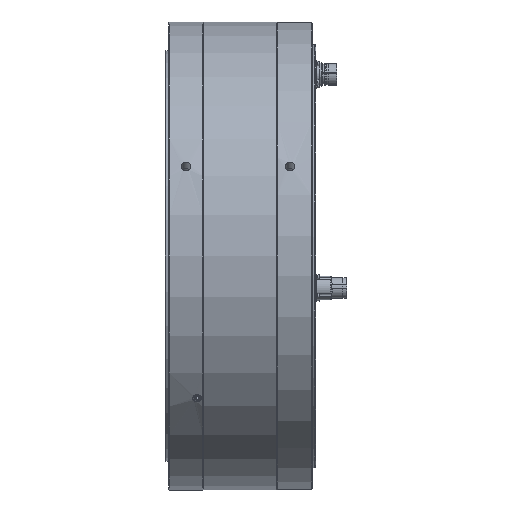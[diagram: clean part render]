
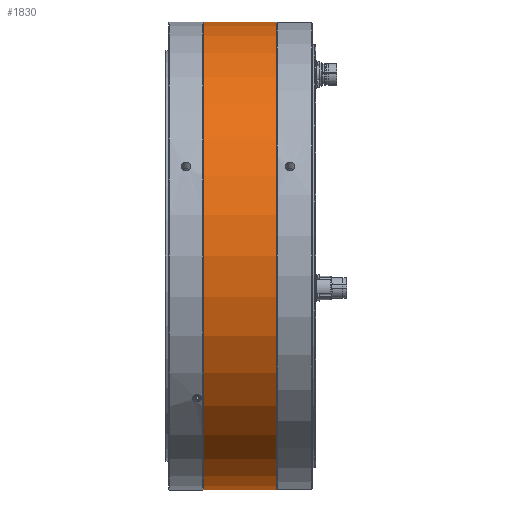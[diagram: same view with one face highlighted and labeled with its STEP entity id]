
A CAD part, front view. The second image highlights one B-rep face of the part: STEP entity #1830.
In plain terms, the highlighted cylindrical face has radius 245 mm (diameter 490 mm), a full revolution.
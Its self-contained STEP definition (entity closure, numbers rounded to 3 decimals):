
#1830 = ADVANCED_FACE( '', ( #3950, #3951 ), #3952, .T. );
#3950 = FACE_OUTER_BOUND( '', #6709, .T. );
#3951 = FACE_OUTER_BOUND( '', #6710, .T. );
#3952 = CYLINDRICAL_SURFACE( '', #6711, 245. );
#6709 = EDGE_LOOP( '', ( #10411 ) );
#6710 = EDGE_LOOP( '', ( #10412 ) );
#6711 = AXIS2_PLACEMENT_3D( '', #10413, #10414, #10415 );
#10411 = ORIENTED_EDGE( '', *, *, #13398, .T. );
#10412 = ORIENTED_EDGE( '', *, *, #13703, .T. );
#10413 = CARTESIAN_POINT( '', ( -60., 0., 0. ) );
#10414 = DIRECTION( '', ( 1., 0., 0. ) );
#10415 = DIRECTION( '', ( 0., 0., 1. ) );
#13398 = EDGE_CURVE( '', #16264, #16264, #16265, .F. );
#13703 = EDGE_CURVE( '', #16726, #16726, #16727, .F. );
#16264 = VERTEX_POINT( '', #18889 );
#16265 = CIRCLE( '', #18890, 245. );
#16726 = VERTEX_POINT( '', #19522 );
#16727 = CIRCLE( '', #19523, 245. );
#18889 = CARTESIAN_POINT( '', ( 0.5, 0., 245. ) );
#18890 = AXIS2_PLACEMENT_3D( '', #21910, #21911, #21912 );
#19522 = CARTESIAN_POINT( '', ( 76.5, 0., -245. ) );
#19523 = AXIS2_PLACEMENT_3D( '', #22381, #22382, #22383 );
#21910 = CARTESIAN_POINT( '', ( 0.5, 0., 0. ) );
#21911 = DIRECTION( '', ( -1., 0., 0. ) );
#21912 = DIRECTION( '', ( 0., 0., 1. ) );
#22381 = CARTESIAN_POINT( '', ( 76.5, 0., 0. ) );
#22382 = DIRECTION( '', ( 1., 0., 0. ) );
#22383 = DIRECTION( '', ( 0., 0., -1. ) );
